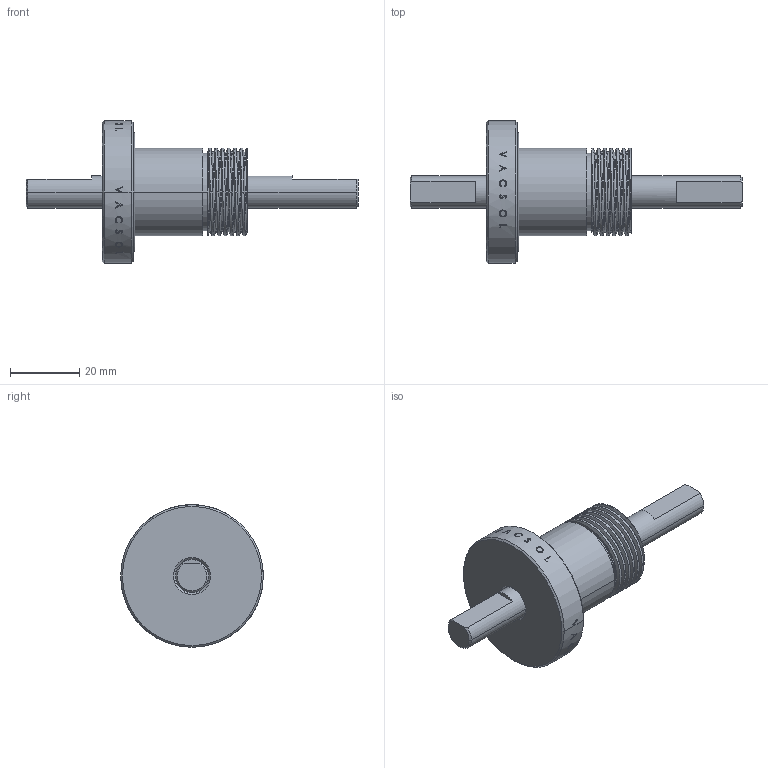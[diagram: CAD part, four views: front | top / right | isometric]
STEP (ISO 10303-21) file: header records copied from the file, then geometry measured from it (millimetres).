
FILE_DESCRIPTION (( 'STEP AP203' ), '1' );
FILE_NAME ('P62050.STEP', '2010-10-11T11:03:37', ( 'user' ), ( '' ), 'SwSTEP 2.0', 'SolidWorks 2007', '' );
FILE_SCHEMA (( 'CONFIG_CONTROL_DESIGN' ));
Length unit declared in the file: millimetre
Products named in the file (1): P62050
Bounding box: 96.1 x 41.27 x 41.27 mm (x, y, z)
Volume: 31630.4 mm3; surface area: 10211.3 mm2
Topology: 2 solids, 2 shells, 286 faces, 740 edges, 488 vertices
Faces by surface type: bspline 179, cylinder 70, plane 19, cone 14, torus 4
Entity records: 20415 total; most frequent: CARTESIAN_POINT 15050, ORIENTED_EDGE 1480, EDGE_CURVE 740, B_SPLINE_CURVE_WITH_KNOTS 544, VERTEX_POINT 488, DIRECTION 432, EDGE_LOOP 318, ADVANCED_FACE 286
